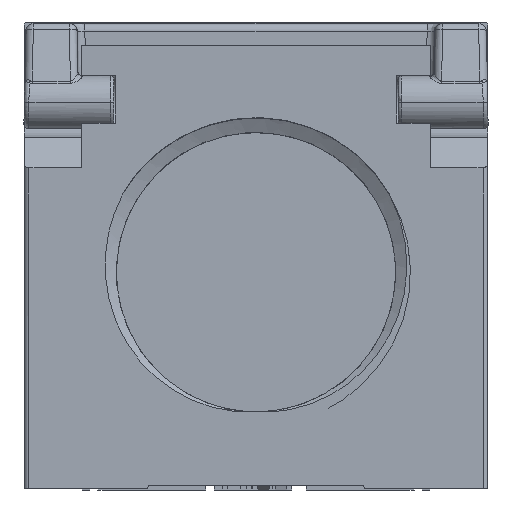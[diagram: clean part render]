
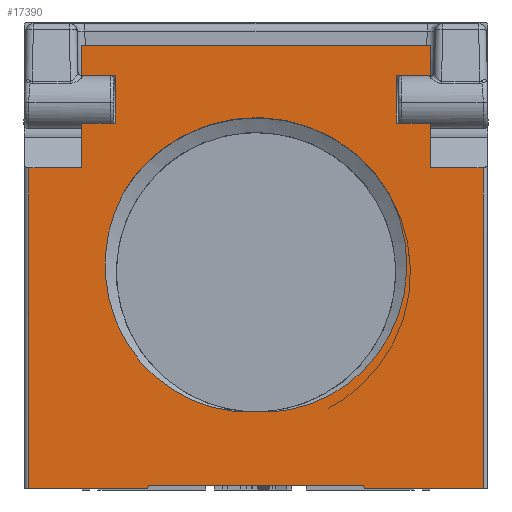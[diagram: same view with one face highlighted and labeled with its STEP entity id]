
A CAD part, front view. The second image highlights one B-rep face of the part: STEP entity #17390.
In plain terms, the highlighted planar face has unit normal (0, -1, 0).
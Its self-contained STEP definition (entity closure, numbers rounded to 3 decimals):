
#1417=DIRECTION('',(0.,0.,-1.));
#1418=VECTOR('',#1417,1.95);
#1419=CARTESIAN_POINT('',(-11.3,-32.,16.2));
#1420=LINE('',#1419,#1418);
#1483=DIRECTION('',(0.,0.,1.));
#1484=VECTOR('',#1483,1.95);
#1485=CARTESIAN_POINT('',(11.3,-32.,14.25));
#1486=LINE('',#1485,#1484);
#5252=DIRECTION('',(-1.,0.,0.));
#5253=VECTOR('',#5252,7.7);
#5254=CARTESIAN_POINT('',(14.7,-32.,-12.5));
#5255=LINE('',#5254,#5253);
#5256=DIRECTION('',(-0.087,0.,0.996));
#5257=VECTOR('',#5256,0.201);
#5258=CARTESIAN_POINT('',(7.,-32.,-12.5));
#5259=LINE('',#5258,#5257);
#5260=DIRECTION('',(-1.,0.,0.));
#5261=VECTOR('',#5260,13.965);
#5262=CARTESIAN_POINT('',(6.983,-32.,-12.3));
#5263=LINE('',#5262,#5261);
#5264=DIRECTION('',(-0.087,0.,-0.996));
#5265=VECTOR('',#5264,0.201);
#5266=CARTESIAN_POINT('',(-6.983,-32.,-12.3));
#5267=LINE('',#5266,#5265);
#5268=DIRECTION('',(-1.,0.,0.));
#5269=VECTOR('',#5268,7.7);
#5270=CARTESIAN_POINT('',(-7.,-32.,-12.5));
#5271=LINE('',#5270,#5269);
#5272=DIRECTION('',(1.,0.,0.));
#5273=VECTOR('',#5272,3.4);
#5274=CARTESIAN_POINT('',(-14.7,-32.,8.25));
#5275=LINE('',#5274,#5273);
#5276=DIRECTION('',(0.,0.,1.));
#5277=VECTOR('',#5276,2.9);
#5278=CARTESIAN_POINT('',(-11.3,-32.,8.25));
#5279=LINE('',#5278,#5277);
#5280=DIRECTION('',(1.,0.,0.));
#5281=VECTOR('',#5280,2.2);
#5282=CARTESIAN_POINT('',(-11.3,-32.,11.15));
#5283=LINE('',#5282,#5281);
#5284=DIRECTION('',(-1.,0.,0.));
#5285=VECTOR('',#5284,2.2);
#5286=CARTESIAN_POINT('',(11.3,-32.,14.25));
#5287=LINE('',#5286,#5285);
#5288=DIRECTION('',(0.,0.,-1.));
#5289=VECTOR('',#5288,3.1);
#5290=CARTESIAN_POINT('',(9.1,-32.,14.25));
#5291=LINE('',#5290,#5289);
#5292=DIRECTION('',(0.,0.,-1.));
#5293=VECTOR('',#5292,2.9);
#5294=CARTESIAN_POINT('',(11.3,-32.,11.15));
#5295=LINE('',#5294,#5293);
#5296=DIRECTION('',(1.,0.,0.));
#5297=VECTOR('',#5296,3.4);
#5298=CARTESIAN_POINT('',(11.3,-32.,8.25));
#5299=LINE('',#5298,#5297);
#5300=CARTESIAN_POINT('',(0.,-32.,1.5));
#5301=DIRECTION('',(0.,-1.,0.));
#5302=DIRECTION('',(0.866,0.,0.5));
#5303=AXIS2_PLACEMENT_3D('',#5300,#5301,#5302);
#5332=DIRECTION('',(0.,0.,-1.));
#5333=VECTOR('',#5332,20.75);
#5334=CARTESIAN_POINT('',(-14.7,-32.,8.25));
#5335=LINE('',#5334,#5333);
#5344=DIRECTION('',(1.,0.,0.));
#5345=VECTOR('',#5344,2.2);
#5346=CARTESIAN_POINT('',(-11.3,-32.,14.25));
#5347=LINE('',#5346,#5345);
#5352=DIRECTION('',(0.,0.,-1.));
#5353=VECTOR('',#5352,3.1);
#5354=CARTESIAN_POINT('',(-9.1,-32.,14.25));
#5355=LINE('',#5354,#5353);
#5378=DIRECTION('',(-1.,0.,0.));
#5379=VECTOR('',#5378,22.6);
#5380=CARTESIAN_POINT('',(11.3,-32.,16.2));
#5381=LINE('',#5380,#5379);
#5409=DIRECTION('',(-1.,0.,0.));
#5410=VECTOR('',#5409,2.2);
#5411=CARTESIAN_POINT('',(11.3,-32.,11.15));
#5412=LINE('',#5411,#5410);
#5421=DIRECTION('',(0.,0.,1.));
#5422=VECTOR('',#5421,20.75);
#5423=CARTESIAN_POINT('',(14.7,-32.,-12.5));
#5424=LINE('',#5423,#5422);
#5425=CARTESIAN_POINT('',(14.7,-32.,8.25));
#5650=CARTESIAN_POINT('',(0.,-32.,
-7.546));
#5651=CARTESIAN_POINT('',(-0.549,-32.,
-7.573));
#5652=CARTESIAN_POINT('',(-1.631,-32.,
-7.53));
#5653=CARTESIAN_POINT('',(-3.235,-32.,
-7.173));
#5654=CARTESIAN_POINT('',(-4.734,-32.,
-6.548));
#5655=CARTESIAN_POINT('',(-6.119,-32.,
-5.651));
#5656=CARTESIAN_POINT('',(-7.249,-32.,
-4.621));
#5657=CARTESIAN_POINT('',(-8.295,-32.,
-3.282));
#5658=CARTESIAN_POINT('',(-9.094,-32.,
-1.751));
#5659=CARTESIAN_POINT('',(-9.605,-32.,
-0.091));
#5660=CARTESIAN_POINT('',(-9.81,-32.,
1.553));
#5661=CARTESIAN_POINT('',(-9.738,-32.,
3.236));
#5662=CARTESIAN_POINT('',(-9.366,-32.,
4.919));
#5663=CARTESIAN_POINT('',(-8.929,-32.,
5.981));
#5664=CARTESIAN_POINT('',(-8.66,-32.,
6.5));
#5965=CARTESIAN_POINT('',(8.66,-32.,6.5));
#5966=CARTESIAN_POINT('',(8.937,-32.,5.966));
#5967=CARTESIAN_POINT('',(9.388,-32.,4.866));
#5968=CARTESIAN_POINT('',(9.765,-32.,3.073));
#5969=CARTESIAN_POINT('',(9.803,-32.,1.257));
#5970=CARTESIAN_POINT('',(9.506,-32.,
-0.552));
#5971=CARTESIAN_POINT('',(8.837,-32.,
-2.352));
#5972=CARTESIAN_POINT('',(7.818,-32.,
-3.972));
#5973=CARTESIAN_POINT('',(6.593,-32.,
-5.275));
#5974=CARTESIAN_POINT('',(5.138,-32.,
-6.335));
#5975=CARTESIAN_POINT('',(3.486,-32.,
-7.101));
#5976=CARTESIAN_POINT('',(1.745,-32.,
-7.522));
#5977=CARTESIAN_POINT('',(0.585,-32.,
-7.575));
#5978=CARTESIAN_POINT('',(0.,-32.,
-7.546));
#8743=CARTESIAN_POINT('',(-14.7,-32.,-12.5));
#8744=VERTEX_POINT('',#8743);
#8745=CARTESIAN_POINT('',(-7.,-32.,-12.5));
#8746=VERTEX_POINT('',#8745);
#8763=CARTESIAN_POINT('',(7.,-32.,-12.5));
#8764=VERTEX_POINT('',#8763);
#8765=CARTESIAN_POINT('',(14.7,-32.,-12.5));
#8766=VERTEX_POINT('',#8765);
#8932=CARTESIAN_POINT('',(-11.3,-32.,16.2));
#8933=VERTEX_POINT('',#8932);
#8934=CARTESIAN_POINT('',(-11.3,-32.,14.25));
#8935=VERTEX_POINT('',#8934);
#8944=CARTESIAN_POINT('',(-11.3,-32.,11.15));
#8945=VERTEX_POINT('',#8944);
#8946=CARTESIAN_POINT('',(-11.3,-32.,8.25));
#8947=VERTEX_POINT('',#8946);
#8954=CARTESIAN_POINT('',(11.3,-32.,8.25));
#8955=VERTEX_POINT('',#8954);
#8956=CARTESIAN_POINT('',(11.3,-32.,11.15));
#8957=VERTEX_POINT('',#8956);
#8964=CARTESIAN_POINT('',(11.3,-32.,14.25));
#8965=VERTEX_POINT('',#8964);
#8966=CARTESIAN_POINT('',(11.3,-32.,16.2));
#8967=VERTEX_POINT('',#8966);
#8968=VERTEX_POINT('',#5425);
#8969=CARTESIAN_POINT('',(6.983,-32.,-12.3));
#8970=VERTEX_POINT('',#8969);
#8971=CARTESIAN_POINT('',(-6.983,-32.,-12.3));
#8972=VERTEX_POINT('',#8971);
#8973=CARTESIAN_POINT('',(-14.7,-32.,8.25));
#8974=VERTEX_POINT('',#8973);
#8975=CARTESIAN_POINT('',(-9.1,-32.,11.15));
#8976=VERTEX_POINT('',#8975);
#8977=CARTESIAN_POINT('',(-9.1,-32.,14.25));
#8978=VERTEX_POINT('',#8977);
#8979=CARTESIAN_POINT('',(9.1,-32.,14.25));
#8980=VERTEX_POINT('',#8979);
#8981=CARTESIAN_POINT('',(9.1,-32.,11.15));
#8982=VERTEX_POINT('',#8981);
#8983=CARTESIAN_POINT('',(8.66,-32.,6.5));
#8984=CARTESIAN_POINT('',(-8.66,-32.,6.5));
#8985=VERTEX_POINT('',#8983);
#8986=VERTEX_POINT('',#8984);
#8987=VERTEX_POINT('',#5650);
#17342=CARTESIAN_POINT('',(-15.,-32.,-12.5));
#17343=DIRECTION('',(0.,-1.,0.));
#17344=DIRECTION('',(1.,0.,0.));
#17345=AXIS2_PLACEMENT_3D('',#17342,#17343,#17344);
#17346=PLANE('',#17345);
#17347=ORIENTED_EDGE('',*,*,#17090,.T.);
#17348=ORIENTED_EDGE('',*,*,#17333,.T.);
#17350=ORIENTED_EDGE('',*,*,#17349,.T.);
#17352=ORIENTED_EDGE('',*,*,#17351,.T.);
#17353=ORIENTED_EDGE('',*,*,#17002,.T.);
#17355=ORIENTED_EDGE('',*,*,#17354,.F.);
#17357=ORIENTED_EDGE('',*,*,#17356,.T.);
#17358=ORIENTED_EDGE('',*,*,#11816,.T.);
#17360=ORIENTED_EDGE('',*,*,#17359,.T.);
#17362=ORIENTED_EDGE('',*,*,#17361,.F.);
#17364=ORIENTED_EDGE('',*,*,#17363,.F.);
#17365=ORIENTED_EDGE('',*,*,#11804,.F.);
#17367=ORIENTED_EDGE('',*,*,#17366,.F.);
#17368=ORIENTED_EDGE('',*,*,#11859,.F.);
#17370=ORIENTED_EDGE('',*,*,#17369,.T.);
#17372=ORIENTED_EDGE('',*,*,#17371,.T.);
#17374=ORIENTED_EDGE('',*,*,#17373,.F.);
#17375=ORIENTED_EDGE('',*,*,#11849,.T.);
#17377=ORIENTED_EDGE('',*,*,#17376,.T.);
#17379=ORIENTED_EDGE('',*,*,#17378,.F.);
#17380=EDGE_LOOP('',(#17347,#17348,#17350,#17352,#17353,#17355,#17357,#17358,
#17360,#17362,#17364,#17365,#17367,#17368,#17370,#17372,#17374,#17375,#17377,
#17379));
#17381=FACE_OUTER_BOUND('',#17380,.F.);
#17383=ORIENTED_EDGE('',*,*,#17382,.T.);
#17385=ORIENTED_EDGE('',*,*,#17384,.F.);
#17387=ORIENTED_EDGE('',*,*,#17386,.F.);
#17388=EDGE_LOOP('',(#17383,#17385,#17387));
#17389=FACE_BOUND('',#17388,.F.);
#17390=ADVANCED_FACE('',(#17381,#17389),#17346,.T.);
#5304=CIRCLE('',#5303,10.);
#5665=B_SPLINE_CURVE_WITH_KNOTS('',3,(#5650,#5651,#5652,#5653,#5654,#5655,#5656,
#5657,#5658,#5659,#5660,#5661,#5662,#5663,#5664),.UNSPECIFIED.,.F.,.F.,(4,1,1,1,
1,1,1,1,1,1,1,1,4),(0.,0.083,0.167,0.25,
0.333,0.417,0.5,0.583,0.667,
0.75,0.833,0.917,1.),.UNSPECIFIED.);
#5979=B_SPLINE_CURVE_WITH_KNOTS('',3,(#5965,#5966,#5967,#5968,#5969,#5970,#5971,
#5972,#5973,#5974,#5975,#5976,#5977,#5978),.UNSPECIFIED.,.F.,.F.,(4,1,1,1,1,1,1,
1,1,1,1,4),(0.,0.091,0.182,0.273,
0.364,0.455,0.545,0.636,
0.727,0.818,0.909,1.),.UNSPECIFIED.);
#11804=EDGE_CURVE('',#8933,#8935,#1420,.T.);
#11816=EDGE_CURVE('',#8947,#8945,#5279,.T.);
#11849=EDGE_CURVE('',#8957,#8955,#5295,.T.);
#11859=EDGE_CURVE('',#8965,#8967,#1486,.T.);
#17002=EDGE_CURVE('',#8746,#8744,#5271,.T.);
#17090=EDGE_CURVE('',#8766,#8764,#5255,.T.);
#17333=EDGE_CURVE('',#8764,#8970,#5259,.T.);
#17349=EDGE_CURVE('',#8970,#8972,#5263,.T.);
#17351=EDGE_CURVE('',#8972,#8746,#5267,.T.);
#17354=EDGE_CURVE('',#8974,#8744,#5335,.T.);
#17356=EDGE_CURVE('',#8974,#8947,#5275,.T.);
#17359=EDGE_CURVE('',#8945,#8976,#5283,.T.);
#17361=EDGE_CURVE('',#8978,#8976,#5355,.T.);
#17363=EDGE_CURVE('',#8935,#8978,#5347,.T.);
#17366=EDGE_CURVE('',#8967,#8933,#5381,.T.);
#17369=EDGE_CURVE('',#8965,#8980,#5287,.T.);
#17371=EDGE_CURVE('',#8980,#8982,#5291,.T.);
#17373=EDGE_CURVE('',#8957,#8982,#5412,.T.);
#17376=EDGE_CURVE('',#8955,#8968,#5299,.T.);
#17378=EDGE_CURVE('',#8766,#8968,#5424,.T.);
#17382=EDGE_CURVE('',#8985,#8986,#5304,.T.);
#17384=EDGE_CURVE('',#8987,#8986,#5665,.T.);
#17386=EDGE_CURVE('',#8985,#8987,#5979,.T.);
